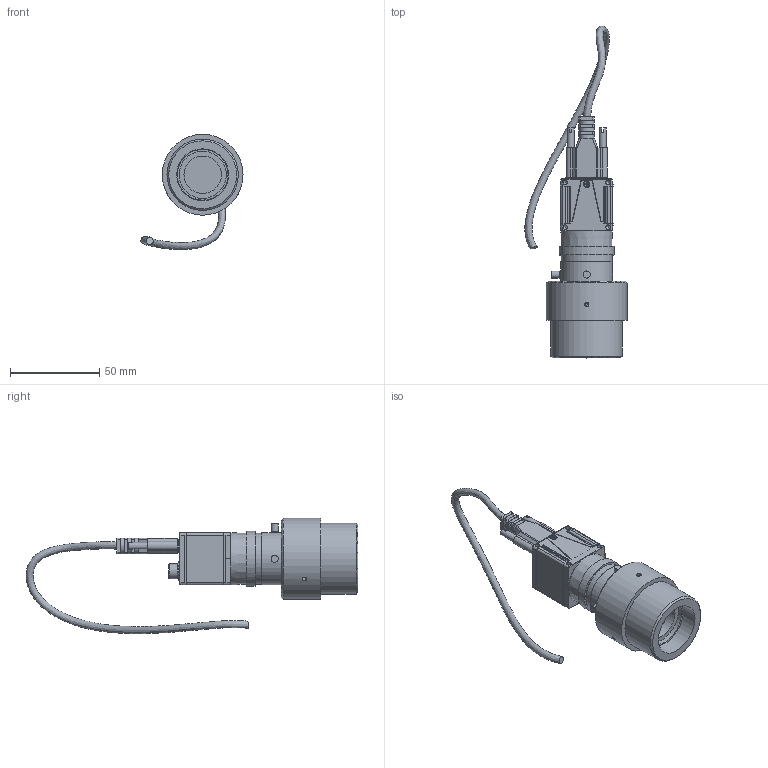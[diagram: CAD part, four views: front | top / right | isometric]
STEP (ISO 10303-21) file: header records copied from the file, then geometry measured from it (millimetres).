
FILE_DESCRIPTION(/* description */ ('OptiVID'),/* implementation_level */ '2;1');
FILE_NAME(/* name */ 'S:\Bureau-Technique\Vidéo\MA 730-002-105.stp',/* time_stamp */ '2018-04-09T17:14:38+02:00',/* author */ ('ms'),/* organization */ ('Marcel Aubert'),/* preprocessor_version */ 'ST-DEVELOPER v17',/* originating_system */ 'Autodesk Inventor 2018',/* authorisation */ '');
FILE_SCHEMA (('AUTOMOTIVE_DESIGN { 1 0 10303 214 3 1 1 }'));
Length unit declared in the file: millimetre
Products named in the file (13): MA 730-002-105; CAM-120-284; MA 726-002-105; MA 726-002-000; MA 726-002-000-100; MA 726-002-000-101; MA 726-006-000-102; 88-057-12; ISO 4026 - M3 x 8; 66-049; CAB-156-030; CNT-052-03; CAB-083(b)
Assembly tree (15 placements, depth 4):
  MA 730-002-105
    CAM-120-284
    MA 726-002-105
      MA 726-002-000
        MA 726-002-000-100
        MA 726-002-000-101
        MA 726-006-000-102  x2
      88-057-12
      ISO 4026 - M3 x 8  x3
      66-049
    CAB-156-030
      CNT-052-03
      CAB-083(b)
Bounding box: 57.25 x 186.07 x 64.62 mm (x, y, z)
Volume: 91620.2 mm3; surface area: 39501.4 mm2
Topology: 19 solids, 19 shells, 905 faces, 2402 edges, 1593 vertices
Faces by surface type: plane 552, cylinder 239, cone 50, bspline 35, torus 27, sphere 2
Full cylindrical faces by diameter (mm): 0.4 x8, 1.567 x2, 1.6 x2, 2 x4, 2.459 x3, 2.5 x4, 3 x5, 3.2 x1, 3.9 x2, 4 x2, 6.8 x1, 8.5 x1, 8.6 x3, 10 x1, 10.6 x1, 21 x1, 22.5 x3, 22.7 x1, 23.5 x1, 24.2 x1, 24.4 x1, 24.8 x1, 25.4 x2, 26 x1, 26.5 x1, 28.4 x1, 28.5 x1, 28.6 x1, 29 x2, 29.1 x1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
Entity records: 42139 total; most frequent: CARTESIAN_POINT 19159, DIRECTION 4665, ORIENTED_EDGE 4644, EDGE_CURVE 2322, AXIS2_PLACEMENT_3D 1590, VERTEX_POINT 1545, LINE 1485, VECTOR 1485
